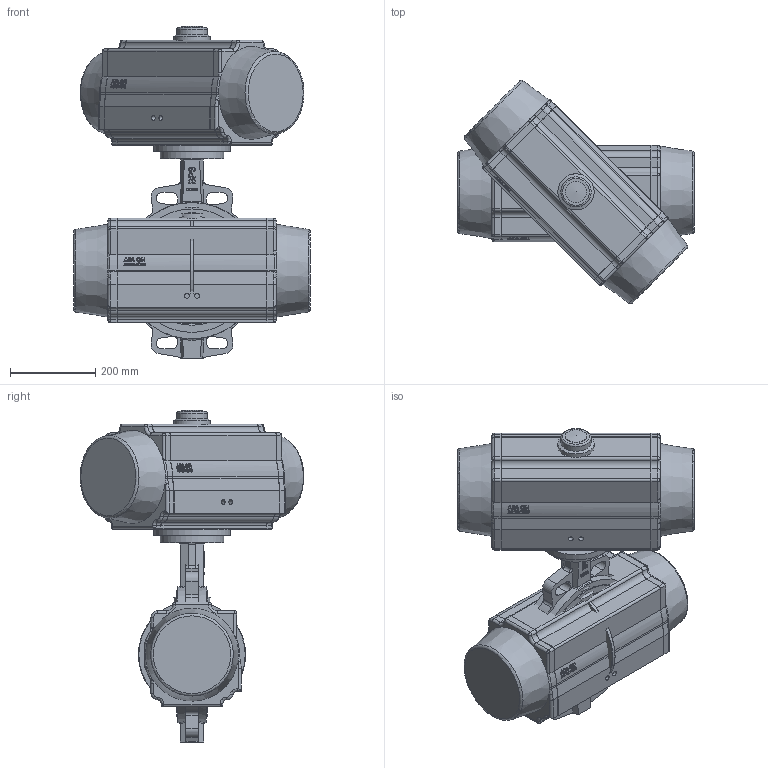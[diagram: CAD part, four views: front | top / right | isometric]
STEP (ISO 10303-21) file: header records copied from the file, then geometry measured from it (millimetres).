
FILE_DESCRIPTION( ( 'Unknown' ), '1' );
FILE_NAME( 'R:/ECCUA/ROOTSI BPS 3D vidinad/Poordklapid Wafer type/Butterfly valve(wafer) with pneumatic actuator BPS/STEP formaat/BPS 2303250PE butterfly valve DN250.stp', 'Unknown', ( 'Unknown' ), ( 'Unknown' ), 'PSStep 10.1', 'Unknown', ' ' );
FILE_SCHEMA( ( 'AUTOMOTIVE_DESIGN { 1 0 10303 214 1 1 1 1 }' ) );
Length unit declared in the file: millimetre
Products named in the file (6): Assem1; Butterfly valve wafer type DN250 BPS; BPS 8300200DA-SR pneumatic actuator; BPS adaptor flange F12-F14
Bounding box: 556 x 525.5 x 779.5 mm (x, y, z)
Volume: 57284011.1 mm3; surface area: 2396992.5 mm2
Topology: 10 solids, 10 shells, 1180 faces, 3046 edges, 1956 vertices
Faces by surface type: plane 424, cylinder 400, bspline 166, extrusion 96, torus 66, cone 18, sphere 10
Full cylindrical faces by diameter (mm): 10.106 x8, 11.445 x4, 13 x8, 13.835 x8, 18 x8, 26 x8, 50 x2, 60 x2, 71 x2, 85 x2, 150 x2, 180 x2, 250 x2, 290 x4, 320 x4
Entity records: 31985 total; most frequent: CARTESIAN_POINT 13949, ORIENTED_EDGE 2866, DIRECTION 2396, EDGE_CURVE 1433, VERTEX_POINT 955, AXIS2_PLACEMENT_3D 913, EDGE_LOOP 726, FACE_OUTER_BOUND 632
